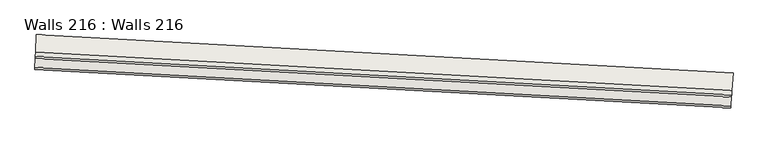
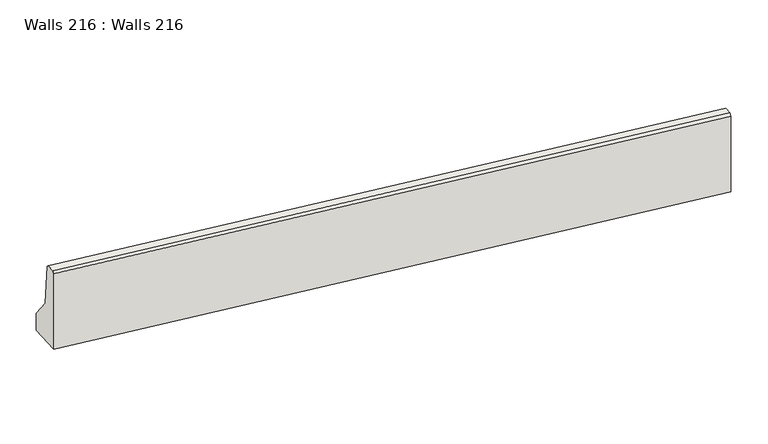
"""IFC4 building model written with IfcOpenShell, lengths in millimetres: wall geometry, Walls 216 : Walls 216."""

from ifc_helpers import new_model, si_unit, frame, origin, place, context, project, spatial, source, transform, mapped, element, save
from ifc_brep_helpers import plane_surface, spline_curve, spline_surface, advanced_brep


def walls_216_walls_216_02bc4358(model_context):
    return source(origin(), model_context, "Body", "AdvancedBrep", [
        advanced_brep(
        [(-790225.8911404, -408788.4265501, 638430.0), (-790218.0431088, -408588.5805884, 638180.0), (-790218.0431088, -408588.5805884, 637960.0), (-790233.739172, -408988.2725118, 637960.0), (-790233.739172, -408988.2725118, 638935.0), (-790232.758168, -408963.2917665, 638960.0), (-790228.8341522, -408863.3687857, 638960.0), (-790227.8531483, -408838.3880405, 638935.0), (-782232.0492351, -409230.5381472, 637930.0), (-782235.6087334, -409280.4112859, 638435.0), (-782237.3884825, -409305.3478553, 638460.0), (-782244.5074791, -409405.0941329, 638460.0), (-782246.2872282, -409430.0307023, 638435.0), (-782246.2872282, -409430.0307023, 637460.0), (-782217.811242, -409031.045592, 637460.0), (-782217.811242, -409031.045592, 637680.0)],
        [
            (0, 1),
            (1, 2),
            (2, 3),
            (3, 4),
            (4, 5),
            (5, 6),
            (6, 7),
            (7, 0),
            (8, 9),
            (9, 10),
            (10, 11),
            (11, 12),
            (12, 13),
            (13, 14),
            (14, 15),
            (15, 8),
            (15, 1, spline_curve(3, [(-782217.811242, -409031.045592, 637680.0), (-784881.967818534, -408840.901939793, 637846.666666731), (-787549.166906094, -408693.388434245, 638013.333333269), (-790218.0431088, -408588.5805884, 638180.0)], [4, 4], [0.0, 26.329084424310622])),
            (0, 8, spline_curve(3, [(-790225.8911404, -408788.4265501, 638430.0), (-787559.146628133, -408893.150683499, 638263.333333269), (-784894.077890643, -409040.546367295, 638096.666666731), (-782232.0492351, -409230.5381472, 637930.0)], [4, 4], [0.0, 26.329084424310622])),
            (14, 2, spline_curve(3, [(-782217.811242, -409031.045592, 637460.0), (-784881.967818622, -408840.90194013, 637626.666666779), (-787549.166905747, -408693.388434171, 637793.333333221), (-790218.0431088, -408588.5805884, 637960.0)], [4, 4], [0.0, 26.339562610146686])),
            (13, 3, spline_curve(3, [(-782246.2872282, -409430.0307023, 637460.0), (-784906.187963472, -409240.190794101, 637626.666666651), (-787569.126349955, -409092.912932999, 637793.333333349), (-790233.739172, -408988.2725118, 637960.0)], [4, 4], [0.0, 26.318606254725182])),
            (12, 4, spline_curve(3, [(-782246.2872282, -409430.0307023, 638435.0), (-784906.187963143, -409240.190794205, 638601.666667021), (-787569.126349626, -409092.912932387, 638768.333332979), (-790233.739172, -408988.2725118, 638935.0)], [4, 4], [0.0, 26.297649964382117])),
            (11, 5, spline_curve(3, [(-782244.5074791, -409405.0941329, 638460.0), (-784904.674204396, -409215.235240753, 638626.666667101), (-787567.878883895, -409067.942651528, 638793.333332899), (-790232.758168, -408963.2917665, 638960.0)], [4, 4], [0.0, 26.298959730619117])),
            (10, 6, spline_curve(3, [(-782237.3884825, -409305.3478553, 638460.0), (-784898.619167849, -409115.413027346, 638626.666666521), (-787562.889023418, -408968.061526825, 638793.333333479), (-790228.8341522, -408863.3687857, 638960.0)], [4, 4], [0.0, 26.30550856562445])),
            (9, 7, spline_curve(3, [(-782235.6087334, -409280.4112859, 638435.0), (-784897.105409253, -409090.457474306, 638601.666666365), (-787561.641557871, -408943.091245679, 638768.333333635), (-790227.8531483, -408838.3880405, 638935.0)], [4, 4], [0.0, 26.31205740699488])),
        ],
        [
            plane_surface(frame((-790227.3626463, -408825.8976679, 638540.0), z_axis=(-0.9992298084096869, 0.03924015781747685, 0.0), x_axis=(0.0, 0.0, 1.0))),
            plane_surface(frame((-782234.7188588, -409267.9430012, 638040.0), z_axis=(0.9974627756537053, -0.07118996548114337, 0.0), x_axis=(0.044472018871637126, 0.6231100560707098, -0.7808688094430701))),
            spline_surface(3, 3, [[(-782232.0492351, -409230.5381472, 637930.0), (-784894.077890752, -409040.546367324, 638096.666666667), (-787559.146627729, -408893.150683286, 638263.333333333), (-790225.8911404, -408788.4265501, 638430.0)], [(-782227.303237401, -409164.040628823, 637846.666666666), (-784890.041199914, -408973.998224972, 638013.333333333), (-787555.820053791, -408826.563266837, 638179.999999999), (-790223.275129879, -408721.811229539, 638346.666666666)], [(-782222.557239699, -409097.543110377, 637763.333333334), (-784886.004509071, -408907.450082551, 637930.000000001), (-787552.493479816, -408759.975850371, 638096.666666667), (-790220.659119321, -408655.195908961, 638263.333333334)], [(-782217.811242, -409031.045592, 637680.0), (-784881.967818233, -408840.901940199, 637846.666666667), (-787549.166905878, -408693.388433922, 638013.333333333), (-790218.0431088, -408588.5805884, 638180.0)]], [4, 4], [4, 4], [0.0, 1.0503812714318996], [0.0, 26.329084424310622]),
            spline_surface(3, 3, [[(-782217.811242, -409031.045592, 637680.0), (-784881.967818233, -408840.901940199, 637846.666666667), (-787549.166905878, -408693.388433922, 638013.333333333), (-790218.0431088, -408588.5805884, 638180.0)], [(-782217.811242, -409031.045592, 637606.666666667), (-784881.967818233, -408840.901940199, 637773.333333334), (-787549.166905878, -408693.388433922, 637940.0), (-790218.0431088, -408588.5805884, 638106.666666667)], [(-782217.811242, -409031.045592, 637533.333333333), (-784881.967818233, -408840.901940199, 637699.999999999), (-787549.166905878, -408693.388433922, 637866.666666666), (-790218.0431088, -408588.5805884, 638033.333333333)], [(-782217.811242, -409031.045592, 637460.0), (-784881.967818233, -408840.901940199, 637626.666666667), (-787549.166905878, -408693.388433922, 637793.333333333), (-790218.0431088, -408588.5805884, 637960.0)]], [4, 4], [4, 4], [0.0, 0.7217847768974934], [0.0, 26.339562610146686]),
            spline_surface(3, 3, [[(-782217.811242, -409031.045592, 637460.0), (-784881.967818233, -408840.901940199, 637626.666666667), (-787549.166905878, -408693.388433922, 637793.333333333), (-790218.0431088, -408588.5805884, 637960.0)], [(-782227.303237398, -409164.040628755, 637460.0), (-784890.04119991, -408973.998224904, 637626.666666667), (-787555.820053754, -408826.56326682, 637793.333333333), (-790223.275129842, -408721.811229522, 637960.0)], [(-782236.795232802, -409297.035665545, 637460.0), (-784898.114581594, -409107.094509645, 637626.666666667), (-787562.473201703, -408959.738099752, 637793.333333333), (-790228.507150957, -408855.041870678, 637960.0)], [(-782246.2872282, -409430.0307023, 637460.0), (-784906.187963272, -409240.19079435, 637626.666666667), (-787569.126349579, -409092.91293265, 637793.333333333), (-790233.739172, -408988.2725118, 637960.0)]], [4, 4], [4, 4], [0.0, 1.3123359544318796], [0.0, 26.318606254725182]),
            spline_surface(3, 3, [[(-782246.2872282, -409430.0307023, 637460.0), (-784906.187963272, -409240.19079435, 637626.666666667), (-787569.126349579, -409092.91293265, 637793.333333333), (-790233.739172, -408988.2725118, 637960.0)], [(-782246.2872282, -409430.0307023, 637784.999999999), (-784906.187963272, -409240.19079435, 637951.666666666), (-787569.126349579, -409092.91293265, 638118.333333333), (-790233.739172, -408988.2725118, 638284.999999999)], [(-782246.2872282, -409430.0307023, 638110.000000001), (-784906.187963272, -409240.19079435, 638276.666666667), (-787569.126349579, -409092.91293265, 638443.333333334), (-790233.739172, -408988.2725118, 638610.000000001)], [(-782246.2872282, -409430.0307023, 638435.0), (-784906.187963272, -409240.19079435, 638601.666666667), (-787569.126349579, -409092.91293265, 638768.333333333), (-790233.739172, -408988.2725118, 638935.0)]], [4, 4], [4, 4], [0.0, 3.198818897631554], [0.0, 26.297649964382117]),
            spline_surface(3, 3, [[(-782246.2872282, -409430.0307023, 638435.0), (-784906.187963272, -409240.19079435, 638601.666666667), (-787569.126349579, -409092.91293265, 638768.333333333), (-790233.739172, -408988.2725118, 638935.0)], [(-782245.693978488, -409421.718512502, 638443.333333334), (-784905.683376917, -409231.872276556, 638610.000000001), (-787568.710527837, -409084.589505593, 638776.666666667), (-790233.412170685, -408979.945596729, 638943.333333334)], [(-782245.100728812, -409413.406322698, 638451.666666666), (-784905.178790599, -409223.553758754, 638618.333333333), (-787568.29470604, -409076.266078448, 638784.999999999), (-790233.085169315, -408971.618681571, 638951.666666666)], [(-782244.5074791, -409405.0941329, 638460.0), (-784904.674204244, -409215.23524096, 638626.666666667), (-787567.878884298, -409067.942651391, 638793.333333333), (-790232.758168, -408963.2917665, 638960.0)]], [4, 4], [4, 4], [0.0, 0.11599520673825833], [0.0, 26.298959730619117]),
            spline_surface(3, 3, [[(-782244.5074791, -409405.0941329, 638460.0), (-784904.674204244, -409215.23524096, 638626.666666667), (-787567.878884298, -409067.942651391, 638793.333333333), (-790232.758168, -408963.2917665, 638960.0)], [(-782242.134480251, -409371.845373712, 638460.0), (-784902.655858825, -409181.961169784, 638626.666666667), (-787566.215597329, -409034.648943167, 638793.333333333), (-790231.450162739, -408929.98410622, 638960.0)], [(-782239.761481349, -409338.596614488, 638460.0), (-784900.637513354, -409148.687098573, 638626.666666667), (-787564.552310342, -409001.355234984, 638793.333333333), (-790230.142157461, -408896.67644598, 638960.0)], [(-782237.3884825, -409305.3478553, 638460.0), (-784898.619167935, -409115.413027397, 638626.666666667), (-787562.889023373, -408968.06152676, 638793.333333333), (-790228.8341522, -408863.3687857, 638960.0)]], [4, 4], [4, 4], [0.0, 0.32808398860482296], [0.0, 26.30550856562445]),
            spline_surface(3, 3, [[(-782237.3884825, -409305.3478553, 638460.0), (-784898.619167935, -409115.413027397, 638626.666666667), (-787562.889023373, -408968.06152676, 638793.333333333), (-790228.8341522, -408863.3687857, 638960.0)], [(-782236.795232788, -409297.035665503, 638451.666666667), (-784898.11458158, -409107.094509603, 638618.333333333), (-787562.47320163, -408959.738099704, 638785.0), (-790228.507150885, -408855.04187063, 638951.666666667)], [(-782236.201983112, -409288.723475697, 638443.333333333), (-784897.609995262, -409098.7759918, 638610.0), (-787562.057379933, -408951.414672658, 638776.666666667), (-790228.180149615, -408846.71495557, 638943.333333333)], [(-782235.6087334, -409280.4112859, 638435.0), (-784897.105408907, -409090.457474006, 638601.666666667), (-787561.641558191, -408943.091245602, 638768.333333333), (-790227.8531483, -408838.3880405, 638935.0)]], [4, 4], [4, 4], [0.0, 0.11599520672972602], [0.0, 26.31205740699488]),
            spline_surface(3, 3, [[(-782235.6087334, -409280.4112859, 638435.0), (-784897.105408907, -409090.457474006, 638601.666666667), (-787561.641558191, -408943.091245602, 638768.333333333), (-790227.8531483, -408838.3880405, 638935.0)], [(-782234.422233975, -409263.786906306, 638266.666666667), (-784896.096236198, -409073.820438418, 638433.333333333), (-787560.809914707, -408926.44439149, 638600.0), (-790227.19914567, -408821.73421036, 638766.666666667)], [(-782233.235734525, -409247.162526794, 638098.333333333), (-784895.087063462, -409057.183402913, 638265.0), (-787559.978271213, -408909.797537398, 638431.666666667), (-790226.54514303, -408805.08038024, 638598.333333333)], [(-782232.0492351, -409230.5381472, 637930.0), (-784894.077890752, -409040.546367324, 638096.666666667), (-787559.146627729, -408893.150683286, 638263.333333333), (-790225.8911404, -408788.4265501, 638430.0)]], [4, 4], [4, 4], [0.0, 1.6649252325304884], [0.0, 26.31598671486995]),
        ],
        [
            (0, [[1, 2, 3, 4, 5, 6, 7, 8]]),
            (1, [[9, 10, 11, 12, 13, 14, 15, 16]]),
            (2, [[-16, 17, -1, 18]]),
            (3, [[-15, 19, -2, -17]]),
            (4, [[-14, 20, -3, -19]]),
            (5, [[-13, 21, -4, -20]]),
            (6, [[-12, 22, -5, -21]]),
            (7, [[-11, 23, -6, -22]]),
            (8, [[-10, 24, -7, -23]]),
            (9, [[-9, -18, -8, -24]]),
        ],
    ),
    ])


if __name__ == "__main__":
    model = new_model("IFC4")
    model_context = context("Model", 3, world=origin())
    ifc_project = project(units=[si_unit("LENGTHUNIT", "METRE", prefix="MILLI")], contexts=[model_context])
    site = spatial("IfcSite", under=ifc_project)
    building = spatial("IfcBuilding", under=site)
    placement = place(None, origin())
    walls_216_walls_216_shape = walls_216_walls_216_02bc4358(model_context)
    element("IfcWall", 1, ObjectType="Walls 216 : Walls 216", at=placement, inside=building, context=model_context, shape_type="MappedRepresentation", body=[
        mapped(walls_216_walls_216_shape, transform((0.0, 0.0, 0.0), x_axis=(1.0, 0.0, 0.0), y_axis=(0.0, 1.0, 0.0), z_axis=(0.0, 0.0, 1.0))),
    ])
    save(model, "model.ifc")
